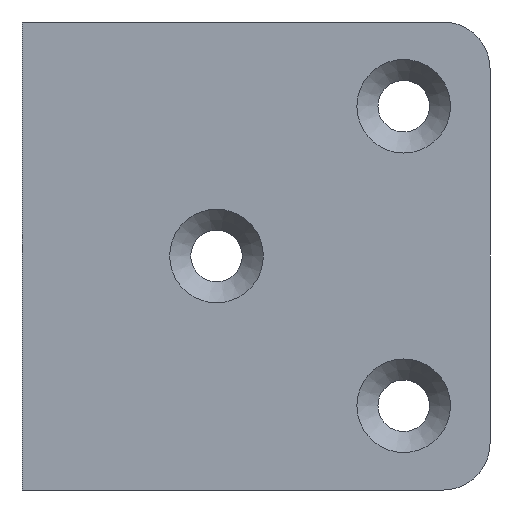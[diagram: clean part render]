
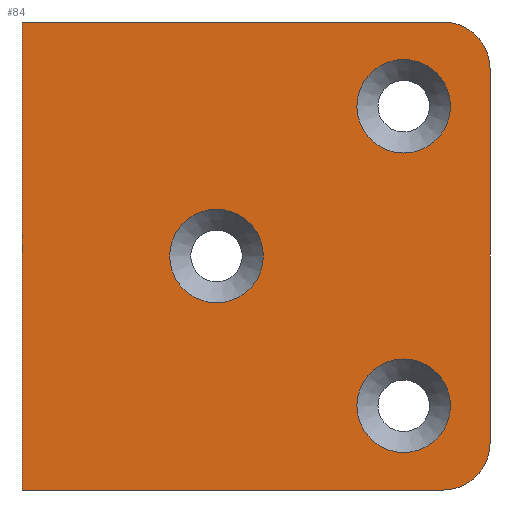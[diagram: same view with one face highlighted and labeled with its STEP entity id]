
A CAD part, front view. The second image highlights one B-rep face of the part: STEP entity #84.
In plain terms, the highlighted planar face has unit normal (0, -1, 0).
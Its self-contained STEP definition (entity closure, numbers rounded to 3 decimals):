
#84 = ADVANCED_FACE( '', ( #213, #214, #215, #216 ), #217, .T. );
#213 = FACE_BOUND( '', #394, .T. );
#214 = FACE_BOUND( '', #395, .T. );
#215 = FACE_BOUND( '', #396, .T. );
#216 = FACE_OUTER_BOUND( '', #397, .T. );
#217 = PLANE( '', #398 );
#394 = EDGE_LOOP( '', ( #581 ) );
#395 = EDGE_LOOP( '', ( #582 ) );
#396 = EDGE_LOOP( '', ( #583 ) );
#397 = EDGE_LOOP( '', ( #584, #585, #586, #587, #588, #589 ) );
#398 = AXIS2_PLACEMENT_3D( '', #590, #591, #592 );
#581 = ORIENTED_EDGE( '', *, *, #1030, .T. );
#582 = ORIENTED_EDGE( '', *, *, #1031, .T. );
#583 = ORIENTED_EDGE( '', *, *, #1022, .T. );
#584 = ORIENTED_EDGE( '', *, *, #1032, .F. );
#585 = ORIENTED_EDGE( '', *, *, #1033, .T. );
#586 = ORIENTED_EDGE( '', *, *, #1034, .F. );
#587 = ORIENTED_EDGE( '', *, *, #1035, .T. );
#588 = ORIENTED_EDGE( '', *, *, #1036, .T. );
#589 = ORIENTED_EDGE( '', *, *, #1037, .T. );
#590 = CARTESIAN_POINT( '', ( 0., 0., 50. ) );
#591 = DIRECTION( '', ( 0., -1., 0. ) );
#592 = DIRECTION( '', ( 1., 0., 0. ) );
#1022 = EDGE_CURVE( '', #1201, #1201, #1202, .T. );
#1030 = EDGE_CURVE( '', #1215, #1215, #1216, .T. );
#1031 = EDGE_CURVE( '', #1217, #1217, #1218, .T. );
#1032 = EDGE_CURVE( '', #1219, #1220, #1221, .T. );
#1033 = EDGE_CURVE( '', #1219, #1222, #1223, .T. );
#1034 = EDGE_CURVE( '', #1224, #1222, #1225, .T. );
#1035 = EDGE_CURVE( '', #1224, #1226, #1227, .T. );
#1036 = EDGE_CURVE( '', #1226, #1228, #1229, .T. );
#1037 = EDGE_CURVE( '', #1228, #1220, #1230, .T. );
#1201 = VERTEX_POINT( '', #1455 );
#1202 = CIRCLE( '', #1456, 5. );
#1215 = VERTEX_POINT( '', #1471 );
#1216 = CIRCLE( '', #1472, 5. );
#1217 = VERTEX_POINT( '', #1473 );
#1218 = CIRCLE( '', #1474, 5. );
#1219 = VERTEX_POINT( '', #1475 );
#1220 = VERTEX_POINT( '', #1476 );
#1221 = LINE( '', #1477, #1478 );
#1222 = VERTEX_POINT( '', #1479 );
#1223 = CIRCLE( '', #1480, 5. );
#1224 = VERTEX_POINT( '', #1481 );
#1225 = LINE( '', #1482, #1483 );
#1226 = VERTEX_POINT( '', #1484 );
#1227 = CIRCLE( '', #1485, 5. );
#1228 = VERTEX_POINT( '', #1486 );
#1229 = LINE( '', #1487, #1488 );
#1230 = LINE( '', #1489, #1490 );
#1455 = CARTESIAN_POINT( '', ( 35.781, 0., 41. ) );
#1456 = AXIS2_PLACEMENT_3D( '', #1779, #1780, #1781 );
#1471 = CARTESIAN_POINT( '', ( 35.781, 0., 9. ) );
#1472 = AXIS2_PLACEMENT_3D( '', #1793, #1794, #1795 );
#1473 = CARTESIAN_POINT( '', ( 15.781, 0., 25. ) );
#1474 = AXIS2_PLACEMENT_3D( '', #1796, #1797, #1798 );
#1475 = CARTESIAN_POINT( '', ( 45., 0., 0. ) );
#1476 = CARTESIAN_POINT( '', ( 0., 0., 0. ) );
#1477 = CARTESIAN_POINT( '', ( 0., 0., 0. ) );
#1478 = VECTOR( '', #1799, 1000. );
#1479 = CARTESIAN_POINT( '', ( 50., 0., 5. ) );
#1480 = AXIS2_PLACEMENT_3D( '', #1800, #1801, #1802 );
#1481 = CARTESIAN_POINT( '', ( 50., 0., 45. ) );
#1482 = CARTESIAN_POINT( '', ( 50., 0., 50. ) );
#1483 = VECTOR( '', #1803, 1000. );
#1484 = CARTESIAN_POINT( '', ( 45., 0., 50. ) );
#1485 = AXIS2_PLACEMENT_3D( '', #1804, #1805, #1806 );
#1486 = CARTESIAN_POINT( '', ( 0., 0., 50. ) );
#1487 = CARTESIAN_POINT( '', ( 0., 0., 50. ) );
#1488 = VECTOR( '', #1807, 1000. );
#1489 = CARTESIAN_POINT( '', ( 0., 0., 50. ) );
#1490 = VECTOR( '', #1808, 1000. );
#1779 = CARTESIAN_POINT( '', ( 40.781, 0., 41. ) );
#1780 = DIRECTION( '', ( 0., 1., 0. ) );
#1781 = DIRECTION( '', ( -1., 0., 0. ) );
#1793 = CARTESIAN_POINT( '', ( 40.781, 0., 9. ) );
#1794 = DIRECTION( '', ( 0., 1., 0. ) );
#1795 = DIRECTION( '', ( -1., 0., 0. ) );
#1796 = CARTESIAN_POINT( '', ( 20.781, 0., 25. ) );
#1797 = DIRECTION( '', ( 0., 1., 0. ) );
#1798 = DIRECTION( '', ( -1., 0., 0. ) );
#1799 = DIRECTION( '', ( -1., 0., 0. ) );
#1800 = CARTESIAN_POINT( '', ( 45., 0., 5. ) );
#1801 = DIRECTION( '', ( 0., -1., 0. ) );
#1802 = DIRECTION( '', ( 1., 0., 0. ) );
#1803 = DIRECTION( '', ( 0., 0., -1. ) );
#1804 = CARTESIAN_POINT( '', ( 45., 0., 45. ) );
#1805 = DIRECTION( '', ( 0., -1., 0. ) );
#1806 = DIRECTION( '', ( 1., 0., 0. ) );
#1807 = DIRECTION( '', ( -1., 0., 0. ) );
#1808 = DIRECTION( '', ( 0., 0., -1. ) );
